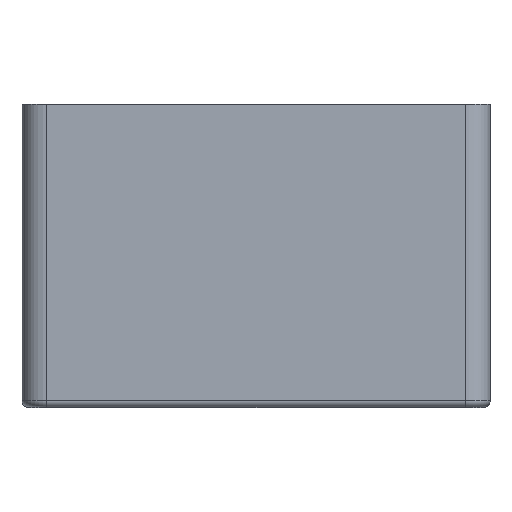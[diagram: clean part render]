
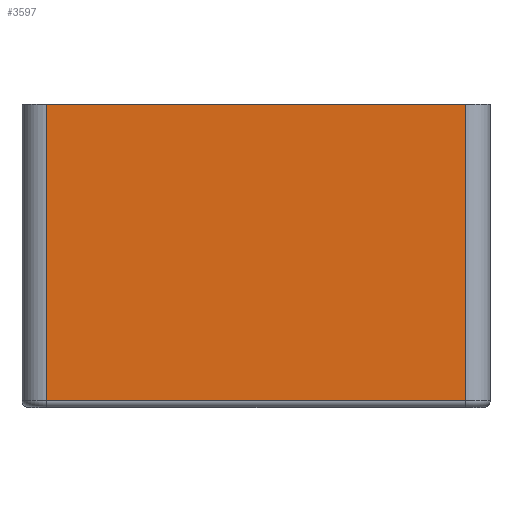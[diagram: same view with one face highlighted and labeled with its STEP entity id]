
A CAD part, top view. The second image highlights one B-rep face of the part: STEP entity #3597.
In plain terms, the highlighted planar face has unit normal (0, 0, 1).
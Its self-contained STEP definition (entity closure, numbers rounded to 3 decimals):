
#72 = PLANE('',#73);
#73 = AXIS2_PLACEMENT_3D('',#74,#75,#76);
#74 = CARTESIAN_POINT('',(-75.,97.,0.));
#75 = DIRECTION('',(0.,1.,0.));
#76 = DIRECTION('',(0.,0.,1.));
#100 = CYLINDRICAL_SURFACE('',#101,8.);
#101 = AXIS2_PLACEMENT_3D('',#102,#103,#104);
#102 = CARTESIAN_POINT('',(-67.,0.,92.));
#103 = DIRECTION('',(0.,1.,0.));
#104 = DIRECTION('',(-1.,0.,0.));
#651 = VERTEX_POINT('',#652);
#652 = CARTESIAN_POINT('',(-67.,97.,100.));
#674 = EDGE_CURVE('',#651,#675,#677,.T.);
#675 = VERTEX_POINT('',#676);
#676 = CARTESIAN_POINT('',(67.,97.,100.));
#677 = SURFACE_CURVE('',#678,(#682,#689),.PCURVE_S1.);
#678 = LINE('',#679,#680);
#679 = CARTESIAN_POINT('',(-75.,97.,100.));
#680 = VECTOR('',#681,1.);
#681 = DIRECTION('',(1.,0.,0.));
#682 = PCURVE('',#72,#683);
#683 = DEFINITIONAL_REPRESENTATION('',(#684),#688);
#684 = LINE('',#685,#686);
#685 = CARTESIAN_POINT('',(100.,0.));
#686 = VECTOR('',#687,1.);
#687 = DIRECTION('',(0.,1.));
#688 = ( GEOMETRIC_REPRESENTATION_CONTEXT(2) 
PARAMETRIC_REPRESENTATION_CONTEXT() REPRESENTATION_CONTEXT('2D SPACE',''
  ) );
#689 = PCURVE('',#690,#695);
#690 = PLANE('',#691);
#691 = AXIS2_PLACEMENT_3D('',#692,#693,#694);
#692 = CARTESIAN_POINT('',(-75.,0.,100.));
#693 = DIRECTION('',(0.,0.,1.));
#694 = DIRECTION('',(1.,0.,0.));
#695 = DEFINITIONAL_REPRESENTATION('',(#696),#700);
#696 = LINE('',#697,#698);
#697 = CARTESIAN_POINT('',(0.,97.));
#698 = VECTOR('',#699,1.);
#699 = DIRECTION('',(1.,0.));
#700 = ( GEOMETRIC_REPRESENTATION_CONTEXT(2) 
PARAMETRIC_REPRESENTATION_CONTEXT() REPRESENTATION_CONTEXT('2D SPACE',''
  ) );
#723 = CYLINDRICAL_SURFACE('',#724,8.);
#724 = AXIS2_PLACEMENT_3D('',#725,#726,#727);
#725 = CARTESIAN_POINT('',(67.,0.,92.));
#726 = DIRECTION('',(0.,1.,0.));
#727 = DIRECTION('',(1.,0.,-0.));
#1373 = VERTEX_POINT('',#1374);
#1374 = CARTESIAN_POINT('',(-67.,2.,100.));
#1396 = EDGE_CURVE('',#1373,#651,#1397,.T.);
#1397 = SURFACE_CURVE('',#1398,(#1402,#1409),.PCURVE_S1.);
#1398 = LINE('',#1399,#1400);
#1399 = CARTESIAN_POINT('',(-67.,0.,100.));
#1400 = VECTOR('',#1401,1.);
#1401 = DIRECTION('',(0.,1.,0.));
#1402 = PCURVE('',#100,#1403);
#1403 = DEFINITIONAL_REPRESENTATION('',(#1404),#1408);
#1404 = LINE('',#1405,#1406);
#1405 = CARTESIAN_POINT('',(1.571,0.));
#1406 = VECTOR('',#1407,1.);
#1407 = DIRECTION('',(0.,1.));
#1408 = ( GEOMETRIC_REPRESENTATION_CONTEXT(2) 
PARAMETRIC_REPRESENTATION_CONTEXT() REPRESENTATION_CONTEXT('2D SPACE',''
  ) );
#1409 = PCURVE('',#690,#1410);
#1410 = DEFINITIONAL_REPRESENTATION('',(#1411),#1415);
#1411 = LINE('',#1412,#1413);
#1412 = CARTESIAN_POINT('',(8.,0.));
#1413 = VECTOR('',#1414,1.);
#1414 = DIRECTION('',(0.,1.));
#1415 = ( GEOMETRIC_REPRESENTATION_CONTEXT(2) 
PARAMETRIC_REPRESENTATION_CONTEXT() REPRESENTATION_CONTEXT('2D SPACE',''
  ) );
#2108 = CYLINDRICAL_SURFACE('',#2109,2.);
#2109 = AXIS2_PLACEMENT_3D('',#2110,#2111,#2112);
#2110 = CARTESIAN_POINT('',(67.,2.,98.));
#2111 = DIRECTION('',(-1.,-0.,-0.));
#2112 = DIRECTION('',(0.,-1.,0.));
#3553 = VERTEX_POINT('',#3554);
#3554 = CARTESIAN_POINT('',(67.,2.,100.));
#3576 = EDGE_CURVE('',#3553,#675,#3577,.T.);
#3577 = SURFACE_CURVE('',#3578,(#3582,#3589),.PCURVE_S1.);
#3578 = LINE('',#3579,#3580);
#3579 = CARTESIAN_POINT('',(67.,0.,100.));
#3580 = VECTOR('',#3581,1.);
#3581 = DIRECTION('',(0.,1.,0.));
#3582 = PCURVE('',#723,#3583);
#3583 = DEFINITIONAL_REPRESENTATION('',(#3584),#3588);
#3584 = LINE('',#3585,#3586);
#3585 = CARTESIAN_POINT('',(-1.571,0.));
#3586 = VECTOR('',#3587,1.);
#3587 = DIRECTION('',(-0.,1.));
#3588 = ( GEOMETRIC_REPRESENTATION_CONTEXT(2) 
PARAMETRIC_REPRESENTATION_CONTEXT() REPRESENTATION_CONTEXT('2D SPACE',''
  ) );
#3589 = PCURVE('',#690,#3590);
#3590 = DEFINITIONAL_REPRESENTATION('',(#3591),#3595);
#3591 = LINE('',#3592,#3593);
#3592 = CARTESIAN_POINT('',(142.,0.));
#3593 = VECTOR('',#3594,1.);
#3594 = DIRECTION('',(0.,1.));
#3595 = ( GEOMETRIC_REPRESENTATION_CONTEXT(2) 
PARAMETRIC_REPRESENTATION_CONTEXT() REPRESENTATION_CONTEXT('2D SPACE',''
  ) );
#3597 = ADVANCED_FACE('',(#3598),#690,.T.);
#3598 = FACE_BOUND('',#3599,.T.);
#3599 = EDGE_LOOP('',(#3600,#3601,#3622,#3623));
#3600 = ORIENTED_EDGE('',*,*,#1396,.F.);
#3601 = ORIENTED_EDGE('',*,*,#3602,.F.);
#3602 = EDGE_CURVE('',#3553,#1373,#3603,.T.);
#3603 = SURFACE_CURVE('',#3604,(#3608,#3615),.PCURVE_S1.);
#3604 = LINE('',#3605,#3606);
#3605 = CARTESIAN_POINT('',(67.,2.,100.));
#3606 = VECTOR('',#3607,1.);
#3607 = DIRECTION('',(-1.,-0.,-0.));
#3608 = PCURVE('',#690,#3609);
#3609 = DEFINITIONAL_REPRESENTATION('',(#3610),#3614);
#3610 = LINE('',#3611,#3612);
#3611 = CARTESIAN_POINT('',(142.,2.));
#3612 = VECTOR('',#3613,1.);
#3613 = DIRECTION('',(-1.,-0.));
#3614 = ( GEOMETRIC_REPRESENTATION_CONTEXT(2) 
PARAMETRIC_REPRESENTATION_CONTEXT() REPRESENTATION_CONTEXT('2D SPACE',''
  ) );
#3615 = PCURVE('',#2108,#3616);
#3616 = DEFINITIONAL_REPRESENTATION('',(#3617),#3621);
#3617 = LINE('',#3618,#3619);
#3618 = CARTESIAN_POINT('',(1.571,0.));
#3619 = VECTOR('',#3620,1.);
#3620 = DIRECTION('',(0.,1.));
#3621 = ( GEOMETRIC_REPRESENTATION_CONTEXT(2) 
PARAMETRIC_REPRESENTATION_CONTEXT() REPRESENTATION_CONTEXT('2D SPACE',''
  ) );
#3622 = ORIENTED_EDGE('',*,*,#3576,.T.);
#3623 = ORIENTED_EDGE('',*,*,#674,.F.);
